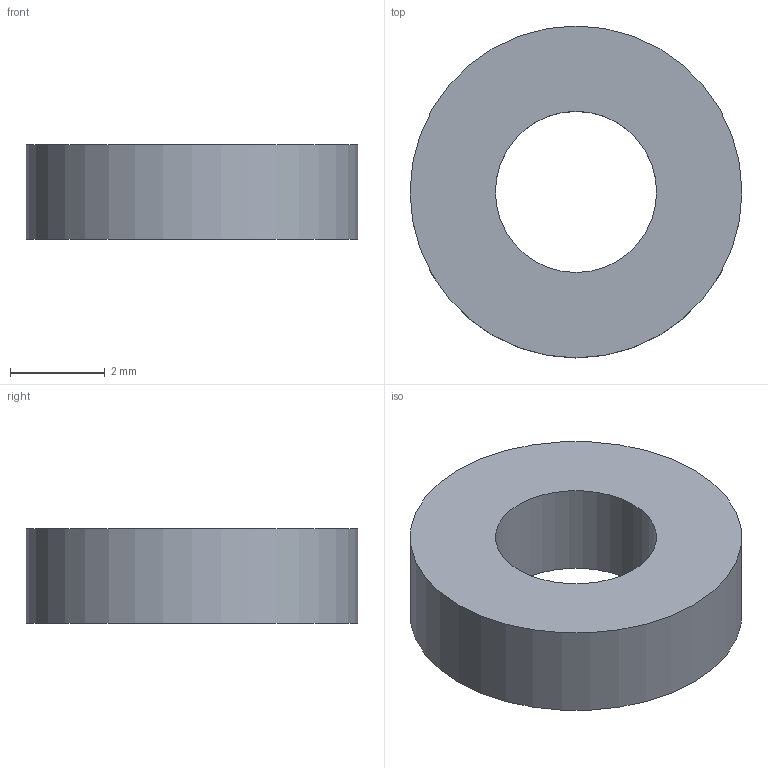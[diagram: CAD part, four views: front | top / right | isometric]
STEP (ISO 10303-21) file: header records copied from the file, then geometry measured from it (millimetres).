
FILE_DESCRIPTION(('Open CASCADE Model'),'2;1');
FILE_NAME('Open CASCADE Shape Model','2026-11-06T11:30:49',('Author'),( 'Open CASCADE'),'Open CASCADE STEP processor 7.8','Open CASCADE 7.8' ,'Unknown');
FILE_SCHEMA(('AUTOMOTIVE_DESIGN { 1 0 10303 214 1 1 1 1 }'));
Length unit declared in the file: millimetre
Products named in the file (1): Open CASCADE STEP translator 7.8 5
Bounding box: 7 x 7 x 2 mm (x, y, z)
Volume: 58.8 mm3; surface area: 124.2 mm2
Topology: 1 solids, 1 shells, 4 faces, 6 edges, 4 vertices
Faces by surface type: cylinder 2, plane 2
Full cylindrical faces by diameter (mm): 3.4 x1, 7 x1
Entity records: 186 total; most frequent: DIRECTION 32, CARTESIAN_POINT 27, ORIENTED_EDGE 12, PCURVE 12, DEFINITIONAL_REPRESENTATION 12, LINE 10, VECTOR 10, AXIS2_PLACEMENT_3D 9
